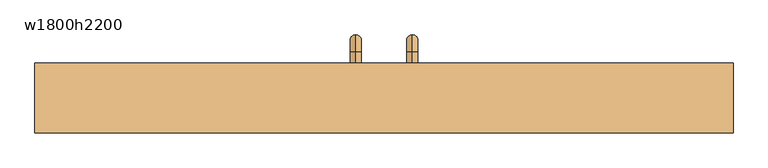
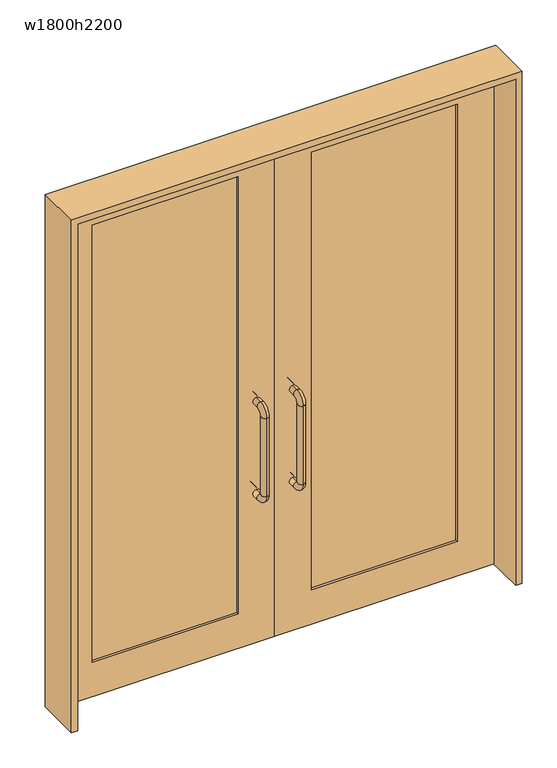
"""IFC4 building model written with IfcOpenShell, lengths in millimetres: door geometry, 両開き_ガラス四方框 : w1800h2200."""

from ifc_helpers import new_model, si_unit, point, frame, origin, place, context, project, spatial, polyline, circle_curve, ellipse_curve, trimmed, outline, extrude, source, transform, mapped, element, save
from ifc_brep_helpers import cylinder_surface, revolved_surface, advanced_brep


def w1800h2200_4cd1905f(model_context):
    return source(origin(), model_context, "Body", "SolidModel", [
        advanced_brep(
        [(75.0, 137.5, 680.0), (75.0, 122.5, 665.0), (75.0, 122.5, 635.0), (75.0, 167.5, 680.0), (75.0, 167.5, 1020.0), (75.0, 137.5, 1020.0), (75.0, 122.5, 1035.0), (75.0, 122.5, 1065.0), (75.0, 32.5, 1065.0), (75.0, 32.5, 1035.0), (75.0, 17.5, 1020.0), (75.0, -12.5, 1020.0), (75.0, -12.5, 680.0), (75.0, 17.5, 680.0), (75.0, 32.5, 665.0), (75.0, 32.5, 635.0)],
        [
            (0, 1, circle_curve(frame((75.0, 122.5, 680.0), z_axis=(-1.0, 0.0, 0.0), x_axis=(0.0, 0.0, -1.0)), 15.0)),
            (1, 2, circle_curve(frame((75.0, 122.5, 650.0), z_axis=(0.0, 1.0, 0.0), x_axis=(0.0, 0.0, 1.0)), 15.0)),
            (2, 3, circle_curve(frame((75.0, 122.5, 680.0), z_axis=(1.0, 0.0, 0.0), x_axis=(0.0, 0.0, -1.0)), 45.0)),
            (3, 0, circle_curve(frame((75.0, 152.5, 680.0), z_axis=(0.0, 0.0, -1.0), x_axis=(0.0, -1.0, 0.0)), 15.0)),
            (2, 1, circle_curve(frame((75.0, 122.5, 650.0), z_axis=(0.0, 1.0, 0.0), x_axis=(0.0, 0.0, 1.0)), 15.0)),
            (0, 3, circle_curve(frame((75.0, 152.5, 680.0), z_axis=(0.0, 0.0, -1.0), x_axis=(0.0, -1.0, 0.0)), 15.0)),
            (3, 4),
            (4, 5, circle_curve(frame((75.0, 152.5, 1020.0), z_axis=(0.0, 0.0, -1.0), x_axis=(0.0, -1.0, 0.0)), 15.0)),
            (5, 0),
            (5, 4, circle_curve(frame((75.0, 152.5, 1020.0), z_axis=(0.0, 0.0, -1.0), x_axis=(0.0, -1.0, 0.0)), 15.0)),
            (6, 5, circle_curve(frame((75.0, 122.5, 1020.0), z_axis=(-1.0, 0.0, 0.0), x_axis=(0.0, 1.0, 0.0)), 15.0)),
            (4, 7, circle_curve(frame((75.0, 122.5, 1020.0), z_axis=(1.0, 0.0, 0.0), x_axis=(0.0, 1.0, 0.0)), 45.0)),
            (7, 6, circle_curve(frame((75.0, 122.5, 1050.0), z_axis=(0.0, 1.0, 0.0), x_axis=(0.0, 0.0, -1.0)), 15.0)),
            (6, 7, circle_curve(frame((75.0, 122.5, 1050.0), z_axis=(0.0, 1.0, 0.0), x_axis=(0.0, 0.0, -1.0)), 15.0)),
            (7, 8),
            (8, 9, circle_curve(frame((75.0, 32.5, 1050.0), z_axis=(0.0, 1.0, 0.0), x_axis=(0.0, 0.0, -1.0)), 15.0)),
            (9, 6),
            (9, 8, circle_curve(frame((75.0, 32.5, 1050.0), z_axis=(0.0, 1.0, 0.0), x_axis=(0.0, 0.0, -1.0)), 15.0)),
            (10, 9, circle_curve(frame((75.0, 32.5, 1020.0), z_axis=(-1.0, 0.0, 0.0), x_axis=(0.0, 0.0, 1.0)), 15.0)),
            (8, 11, circle_curve(frame((75.0, 32.5, 1020.0), z_axis=(1.0, 0.0, 0.0), x_axis=(0.0, 0.0, 1.0)), 45.0)),
            (11, 10, circle_curve(frame((75.0, 2.5, 1020.0), z_axis=(0.0, 0.0, 1.0), x_axis=(0.0, 1.0, 0.0)), 15.0)),
            (10, 11, circle_curve(frame((75.0, 2.5, 1020.0), z_axis=(0.0, 0.0, 1.0), x_axis=(0.0, 1.0, 0.0)), 15.0)),
            (11, 12),
            (12, 13, circle_curve(frame((75.0, 2.5, 680.0), z_axis=(0.0, 0.0, 1.0), x_axis=(0.0, 1.0, 0.0)), 15.0)),
            (13, 10),
            (13, 12, circle_curve(frame((75.0, 2.5, 680.0), z_axis=(0.0, 0.0, 1.0), x_axis=(0.0, 1.0, 0.0)), 15.0)),
            (14, 13, circle_curve(frame((75.0, 32.5, 680.0), z_axis=(-1.0, 0.0, 0.0), x_axis=(0.0, -1.0, 0.0)), 15.0)),
            (12, 15, circle_curve(frame((75.0, 32.5, 680.0), z_axis=(1.0, 0.0, 0.0), x_axis=(0.0, -1.0, 0.0)), 45.0)),
            (15, 14, circle_curve(frame((75.0, 32.5, 650.0), z_axis=(0.0, -1.0, 0.0), x_axis=(0.0, 0.0, 1.0)), 15.0)),
            (14, 15, circle_curve(frame((75.0, 32.5, 650.0), z_axis=(0.0, -1.0, 0.0), x_axis=(0.0, 0.0, 1.0)), 15.0)),
            (15, 2),
            (1, 14),
        ],
        [
            revolved_surface(trimmed(ellipse_curve(frame((75.0, 122.5, 650.0), z_axis=(0.0, -1.0, 0.0), x_axis=(0.0, 0.0, 1.0)), 15.0, 15.0), [point((75.0, 122.5, 635.0))], [point((75.0, 122.5, 665.0))], True, "CARTESIAN"), (75.0, 122.5, 680.0), (1.0, 0.0, 0.0)),
            revolved_surface(trimmed(ellipse_curve(frame((75.0, 122.5, 650.0), z_axis=(0.0, -1.0, 0.0), x_axis=(0.0, 0.0, 1.0)), 15.0, 15.0), [point((75.0, 122.5, 665.0))], [point((75.0, 122.5, 635.0))], True, "CARTESIAN"), (75.0, 122.5, 680.0), (1.0, 0.0, 0.0)),
            cylinder_surface(frame((75.0, 152.5, 680.0), z_axis=(0.0, 0.0, -1.0), x_axis=(0.0, -1.0, 0.0)), 15.0),
            revolved_surface(trimmed(ellipse_curve(frame((75.0, 152.5, 1020.0), z_axis=(0.0, 0.0, -1.0), x_axis=(0.0, -1.0, 0.0)), 15.0, 15.0), [point((75.0, 167.5, 1020.0))], [point((75.0, 137.5, 1020.0))], True, "CARTESIAN"), (75.0, 122.5, 1020.0), (1.0, 0.0, 0.0)),
            revolved_surface(trimmed(ellipse_curve(frame((75.0, 152.5, 1020.0), z_axis=(0.0, 0.0, -1.0), x_axis=(0.0, -1.0, 0.0)), 15.0, 15.0), [point((75.0, 137.5, 1020.0))], [point((75.0, 167.5, 1020.0))], True, "CARTESIAN"), (75.0, 122.5, 1020.0), (1.0, 0.0, 0.0)),
            cylinder_surface(frame((75.0, 122.5, 1050.0), z_axis=(0.0, 1.0, 0.0), x_axis=(0.0, 0.0, -1.0)), 15.0),
            revolved_surface(trimmed(ellipse_curve(frame((75.0, 32.5, 1050.0), z_axis=(0.0, 1.0, 0.0), x_axis=(0.0, 0.0, -1.0)), 15.0, 15.0), [point((75.0, 32.5, 1065.0))], [point((75.0, 32.5, 1035.0))], True, "CARTESIAN"), (75.0, 32.5, 1020.0), (1.0, 0.0, 0.0)),
            revolved_surface(trimmed(ellipse_curve(frame((75.0, 32.5, 1050.0), z_axis=(0.0, 1.0, 0.0), x_axis=(0.0, 0.0, -1.0)), 15.0, 15.0), [point((75.0, 32.5, 1035.0))], [point((75.0, 32.5, 1065.0))], True, "CARTESIAN"), (75.0, 32.5, 1020.0), (1.0, 0.0, 0.0)),
            cylinder_surface(frame((75.0, 2.5, 1020.0), z_axis=(0.0, 0.0, 1.0), x_axis=(0.0, 1.0, 0.0)), 15.0),
            revolved_surface(trimmed(ellipse_curve(frame((75.0, 2.5, 680.0), z_axis=(0.0, 0.0, 1.0), x_axis=(0.0, 1.0, 0.0)), 15.0, 15.0), [point((75.0, -12.5, 680.0))], [point((75.0, 17.5, 680.0))], True, "CARTESIAN"), (75.0, 32.5, 680.0), (1.0, 0.0, 0.0)),
            revolved_surface(trimmed(ellipse_curve(frame((75.0, 2.5, 680.0), z_axis=(0.0, 0.0, 1.0), x_axis=(0.0, 1.0, 0.0)), 15.0, 15.0), [point((75.0, 17.5, 680.0))], [point((75.0, -12.5, 680.0))], True, "CARTESIAN"), (75.0, 32.5, 680.0), (1.0, 0.0, 0.0)),
            cylinder_surface(frame((75.0, 32.5, 650.0), z_axis=(0.0, -1.0, 0.0), x_axis=(0.0, 0.0, 1.0)), 15.0),
        ],
        [
            (0, [[1, 2, 3, 4]]),
            (1, [[-3, 5, -1, 6]]),
            (2, [[-4, 7, 8, 9]]),
            (2, [[-6, -9, 10, -7]]),
            (3, [[11, -8, 12, 13]]),
            (4, [[-12, -10, -11, 14]]),
            (5, [[-13, 15, 16, 17]]),
            (5, [[-14, -17, 18, -15]]),
            (6, [[19, -16, 20, 21]]),
            (7, [[-20, -18, -19, 22]]),
            (8, [[-21, 23, 24, 25]]),
            (8, [[-22, -25, 26, -23]]),
            (9, [[27, -24, 28, 29]]),
            (10, [[-28, -26, -27, 30]]),
            (11, [[-29, 31, -2, 32]]),
            (11, [[-30, -32, -5, -31]]),
        ],
    ),
        advanced_brep(
        [(-75.0, 137.5, 680.0), (-75.0, 122.5, 665.0), (-75.0, 122.5, 635.0), (-75.0, 167.5, 680.0), (-75.0, 167.5, 1020.0), (-75.0, 137.5, 1020.0), (-75.0, 122.5, 1035.0), (-75.0, 122.5, 1065.0), (-75.0, 32.5, 1065.0), (-75.0, 32.5, 1035.0), (-75.0, 17.5, 1020.0), (-75.0, -12.5, 1020.0), (-75.0, -12.5, 680.0), (-75.0, 17.5, 680.0), (-75.0, 32.5, 665.0), (-75.0, 32.5, 635.0)],
        [
            (0, 1, circle_curve(frame((-75.0, 122.5, 680.0), z_axis=(-1.0, 0.0, 0.0), x_axis=(0.0, 0.0, -1.0)), 15.0)),
            (1, 2, circle_curve(frame((-75.0, 122.5, 650.0), z_axis=(0.0, 1.0, 0.0), x_axis=(0.0, 0.0, 1.0)), 15.0)),
            (2, 3, circle_curve(frame((-75.0, 122.5, 680.0), z_axis=(1.0, 0.0, 0.0), x_axis=(0.0, 0.0, -1.0)), 45.0)),
            (3, 0, circle_curve(frame((-75.0, 152.5, 680.0), z_axis=(0.0, 0.0, -1.0), x_axis=(0.0, -1.0, 0.0)), 15.0)),
            (2, 1, circle_curve(frame((-75.0, 122.5, 650.0), z_axis=(0.0, 1.0, 0.0), x_axis=(0.0, 0.0, 1.0)), 15.0)),
            (0, 3, circle_curve(frame((-75.0, 152.5, 680.0), z_axis=(0.0, 0.0, -1.0), x_axis=(0.0, -1.0, 0.0)), 15.0)),
            (3, 4),
            (4, 5, circle_curve(frame((-75.0, 152.5, 1020.0), z_axis=(0.0, 0.0, -1.0), x_axis=(0.0, -1.0, 0.0)), 15.0)),
            (5, 0),
            (5, 4, circle_curve(frame((-75.0, 152.5, 1020.0), z_axis=(0.0, 0.0, -1.0), x_axis=(0.0, -1.0, 0.0)), 15.0)),
            (6, 5, circle_curve(frame((-75.0, 122.5, 1020.0), z_axis=(-1.0, 0.0, 0.0), x_axis=(0.0, 1.0, 0.0)), 15.0)),
            (4, 7, circle_curve(frame((-75.0, 122.5, 1020.0), z_axis=(1.0, 0.0, 0.0), x_axis=(0.0, 1.0, 0.0)), 45.0)),
            (7, 6, circle_curve(frame((-75.0, 122.5, 1050.0), z_axis=(0.0, 1.0, 0.0), x_axis=(0.0, 0.0, -1.0)), 15.0)),
            (6, 7, circle_curve(frame((-75.0, 122.5, 1050.0), z_axis=(0.0, 1.0, 0.0), x_axis=(0.0, 0.0, -1.0)), 15.0)),
            (7, 8),
            (8, 9, circle_curve(frame((-75.0, 32.5, 1050.0), z_axis=(0.0, 1.0, 0.0), x_axis=(0.0, 0.0, -1.0)), 15.0)),
            (9, 6),
            (9, 8, circle_curve(frame((-75.0, 32.5, 1050.0), z_axis=(0.0, 1.0, 0.0), x_axis=(0.0, 0.0, -1.0)), 15.0)),
            (10, 9, circle_curve(frame((-75.0, 32.5, 1020.0), z_axis=(-1.0, 0.0, 0.0), x_axis=(0.0, 0.0, 1.0)), 15.0)),
            (8, 11, circle_curve(frame((-75.0, 32.5, 1020.0), z_axis=(1.0, 0.0, 0.0), x_axis=(0.0, 0.0, 1.0)), 45.0)),
            (11, 10, circle_curve(frame((-75.0, 2.5, 1020.0), z_axis=(0.0, 0.0, 1.0), x_axis=(0.0, 1.0, 0.0)), 15.0)),
            (10, 11, circle_curve(frame((-75.0, 2.5, 1020.0), z_axis=(0.0, 0.0, 1.0), x_axis=(0.0, 1.0, 0.0)), 15.0)),
            (11, 12),
            (12, 13, circle_curve(frame((-75.0, 2.5, 680.0), z_axis=(0.0, 0.0, 1.0), x_axis=(0.0, 1.0, 0.0)), 15.0)),
            (13, 10),
            (13, 12, circle_curve(frame((-75.0, 2.5, 680.0), z_axis=(0.0, 0.0, 1.0), x_axis=(0.0, 1.0, 0.0)), 15.0)),
            (14, 13, circle_curve(frame((-75.0, 32.5, 680.0), z_axis=(-1.0, 0.0, 0.0), x_axis=(0.0, -1.0, 0.0)), 15.0)),
            (12, 15, circle_curve(frame((-75.0, 32.5, 680.0), z_axis=(1.0, 0.0, 0.0), x_axis=(0.0, -1.0, 0.0)), 45.0)),
            (15, 14, circle_curve(frame((-75.0, 32.5, 650.0), z_axis=(0.0, -1.0, 0.0), x_axis=(0.0, 0.0, 1.0)), 15.0)),
            (14, 15, circle_curve(frame((-75.0, 32.5, 650.0), z_axis=(0.0, -1.0, 0.0), x_axis=(0.0, 0.0, 1.0)), 15.0)),
            (15, 2),
            (1, 14),
        ],
        [
            revolved_surface(trimmed(ellipse_curve(frame((-75.0, 122.5, 650.0), z_axis=(0.0, -1.0, 0.0), x_axis=(0.0, 0.0, 1.0)), 15.0, 15.0), [point((-75.0, 122.5, 635.0))], [point((-75.0, 122.5, 665.0))], True, "CARTESIAN"), (-75.0, 122.5, 680.0), (1.0, 0.0, 0.0)),
            revolved_surface(trimmed(ellipse_curve(frame((-75.0, 122.5, 650.0), z_axis=(0.0, -1.0, 0.0), x_axis=(0.0, 0.0, 1.0)), 15.0, 15.0), [point((-75.0, 122.5, 665.0))], [point((-75.0, 122.5, 635.0))], True, "CARTESIAN"), (-75.0, 122.5, 680.0), (1.0, 0.0, 0.0)),
            cylinder_surface(frame((-75.0, 152.5, 680.0), z_axis=(0.0, 0.0, -1.0), x_axis=(0.0, -1.0, 0.0)), 15.0),
            revolved_surface(trimmed(ellipse_curve(frame((-75.0, 152.5, 1020.0), z_axis=(0.0, 0.0, -1.0), x_axis=(0.0, -1.0, 0.0)), 15.0, 15.0), [point((-75.0, 167.5, 1020.0))], [point((-75.0, 137.5, 1020.0))], True, "CARTESIAN"), (-75.0, 122.5, 1020.0), (1.0, 0.0, 0.0)),
            revolved_surface(trimmed(ellipse_curve(frame((-75.0, 152.5, 1020.0), z_axis=(0.0, 0.0, -1.0), x_axis=(0.0, -1.0, 0.0)), 15.0, 15.0), [point((-75.0, 137.5, 1020.0))], [point((-75.0, 167.5, 1020.0))], True, "CARTESIAN"), (-75.0, 122.5, 1020.0), (1.0, 0.0, 0.0)),
            cylinder_surface(frame((-75.0, 122.5, 1050.0), z_axis=(0.0, 1.0, 0.0), x_axis=(0.0, 0.0, -1.0)), 15.0),
            revolved_surface(trimmed(ellipse_curve(frame((-75.0, 32.5, 1050.0), z_axis=(0.0, 1.0, 0.0), x_axis=(0.0, 0.0, -1.0)), 15.0, 15.0), [point((-75.0, 32.5, 1065.0))], [point((-75.0, 32.5, 1035.0))], True, "CARTESIAN"), (-75.0, 32.5, 1020.0), (1.0, 0.0, 0.0)),
            revolved_surface(trimmed(ellipse_curve(frame((-75.0, 32.5, 1050.0), z_axis=(0.0, 1.0, 0.0), x_axis=(0.0, 0.0, -1.0)), 15.0, 15.0), [point((-75.0, 32.5, 1035.0))], [point((-75.0, 32.5, 1065.0))], True, "CARTESIAN"), (-75.0, 32.5, 1020.0), (1.0, 0.0, 0.0)),
            cylinder_surface(frame((-75.0, 2.5, 1020.0), z_axis=(0.0, 0.0, 1.0), x_axis=(0.0, 1.0, 0.0)), 15.0),
            revolved_surface(trimmed(ellipse_curve(frame((-75.0, 2.5, 680.0), z_axis=(0.0, 0.0, 1.0), x_axis=(0.0, 1.0, 0.0)), 15.0, 15.0), [point((-75.0, -12.5, 680.0))], [point((-75.0, 17.5, 680.0))], True, "CARTESIAN"), (-75.0, 32.5, 680.0), (1.0, 0.0, 0.0)),
            revolved_surface(trimmed(ellipse_curve(frame((-75.0, 2.5, 680.0), z_axis=(0.0, 0.0, 1.0), x_axis=(0.0, 1.0, 0.0)), 15.0, 15.0), [point((-75.0, 17.5, 680.0))], [point((-75.0, -12.5, 680.0))], True, "CARTESIAN"), (-75.0, 32.5, 680.0), (1.0, 0.0, 0.0)),
            cylinder_surface(frame((-75.0, 32.5, 650.0), z_axis=(0.0, -1.0, 0.0), x_axis=(0.0, 0.0, 1.0)), 15.0),
        ],
        [
            (0, [[1, 2, 3, 4]]),
            (1, [[-3, 5, -1, 6]]),
            (2, [[-4, 7, 8, 9]]),
            (2, [[-6, -9, 10, -7]]),
            (3, [[11, -8, 12, 13]]),
            (4, [[-12, -10, -11, 14]]),
            (5, [[-13, 15, 16, 17]]),
            (5, [[-14, -17, 18, -15]]),
            (6, [[19, -16, 20, 21]]),
            (7, [[-20, -18, -19, 22]]),
            (8, [[-21, 23, 24, 25]]),
            (8, [[-22, -25, 26, -23]]),
            (9, [[27, -24, 28, 29]]),
            (10, [[-28, -26, -27, 30]]),
            (11, [[-29, 31, -2, 32]]),
            (11, [[-30, -32, -5, -31]]),
        ],
    ),
        extrude(outline(polyline([(2200.0, 900.0), (2200.0, 0.0), (0.0, 0.0), (0.0, 900.0), (2200.0, 900.0)]), holes=[polyline([(2050.0, 750.0), (150.0, 750.0), (150.0, 150.0), (2050.0, 150.0), (2050.0, 750.0)])]), frame((0.0, 62.5, 0.0), z_axis=(0.0, 1.0, 0.0), x_axis=(0.0, 0.0, 1.0)), (0.0, 0.0, 1.0), 30.0),
        extrude(outline(polyline([(2225.0, -925.0), (0.0, -925.0), (0.0, -900.0), (2200.0, -900.0), (2200.0, 900.0), (0.0, 900.0), (0.0, 925.0), (2225.0, 925.0), (2225.0, -925.0)])), frame((0.0, -92.5, 0.0), z_axis=(0.0, 1.0, 0.0), x_axis=(0.0, 0.0, 1.0)), (0.0, 0.0, 1.0), 185.0),
        extrude(outline(polyline([(2200.0, 0.0), (2200.0, -900.0), (0.0, -900.0), (0.0, 0.0), (2200.0, 0.0)]), holes=[polyline([(2050.0, -150.0), (150.0, -150.0), (150.0, -750.0), (2050.0, -750.0), (2050.0, -150.0)])]), frame((0.0, 62.5, 0.0), z_axis=(0.0, 1.0, 0.0), x_axis=(0.0, 0.0, 1.0)), (0.0, 0.0, 1.0), 30.0),
        extrude(outline(polyline([(-150.0, 72.5), (-750.0, 72.5), (-750.0, 75.0), (-150.0, 75.0), (-150.0, 72.5)])), frame((0.0, 0.0, 150.0), z_axis=(0.0, 0.0, 1.0), x_axis=(1.0, 0.0, 0.0)), (0.0, 0.0, 1.0), 1900.0),
        extrude(outline(polyline([(750.0, 72.5), (150.0, 72.5), (150.0, 75.0), (750.0, 75.0), (750.0, 72.5)])), frame((0.0, 0.0, 150.0), z_axis=(0.0, 0.0, 1.0), x_axis=(1.0, 0.0, 0.0)), (0.0, 0.0, 1.0), 1900.0),
    ])


if __name__ == "__main__":
    model = new_model("IFC4")
    model_context = context("Model", 3, world=origin())
    ifc_project = project(units=[si_unit("LENGTHUNIT", "METRE", prefix="MILLI")], contexts=[model_context])
    site = spatial("IfcSite", under=ifc_project)
    building = spatial("IfcBuilding", under=site)
    placement = place(None, origin())
    w1800h2200_shape = w1800h2200_4cd1905f(model_context)
    element("IfcDoor", 1, ObjectType="両開き_ガラス四方框 : w1800h2200", at=placement, inside=building, context=model_context, shape_type="MappedRepresentation", body=[
        mapped(w1800h2200_shape, transform((0.0, 0.0, 0.0), x_axis=(1.0, 0.0, 0.0), y_axis=(0.0, 1.0, 0.0), z_axis=(0.0, 0.0, 1.0))),
    ])
    save(model, "model.ifc")
